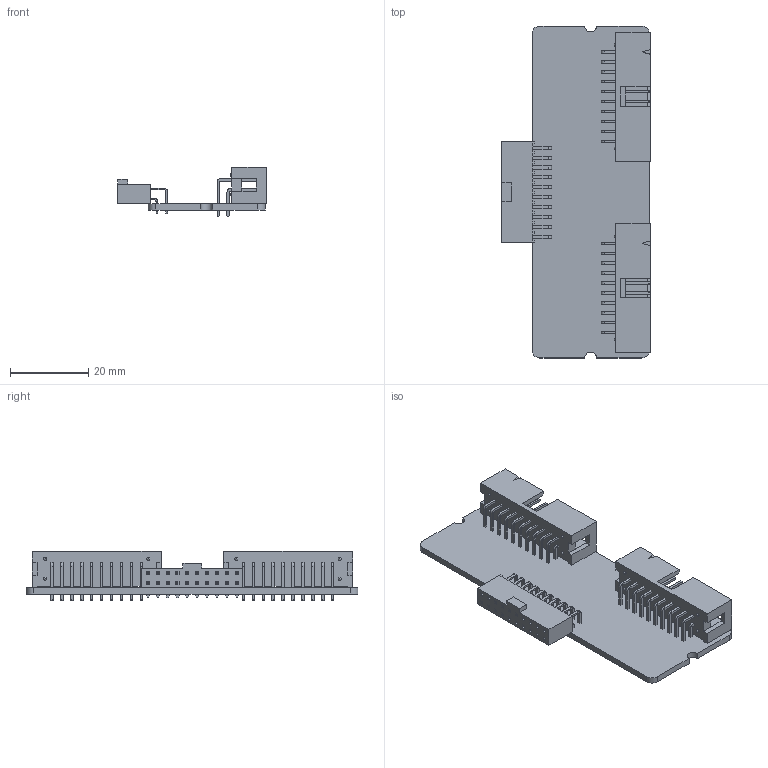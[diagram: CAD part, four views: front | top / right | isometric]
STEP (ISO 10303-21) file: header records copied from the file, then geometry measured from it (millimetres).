
FILE_DESCRIPTION(('Open CASCADE Model'),'2;1');
FILE_NAME('Open CASCADE Shape Model','2026-09-04T10:23:18',('Author'),( 'Open CASCADE'),'Open CASCADE STEP processor 7.5','Open CASCADE 7.5' ,'Unknown');
FILE_SCHEMA(('AUTOMOTIVE_DESIGN { 1 0 10303 214 1 1 1 1 }'));
Length unit declared in the file: millimetre
Products named in the file (13): PCB; Board; Open CASCADE STEP translator 7.5 2.1.1; P3; TST-110-04-G-D-RA; TST-110-04-D_header; TST-First_Position_Indicator; T-1S6-10-04-D-RA; P2; P1; SSW-110-02-G-D-RA-N; T1SSW-110-02-G-D-RA-N; P2SSW-110-02-G-D-RA
Assembly tree (13 placements, depth 4):
  PCB
    Board
      Open CASCADE STEP translator 7.5 2.1.1
    P3
      TST-110-04-G-D-RA
        TST-110-04-D_header
        TST-First_Position_Indicator
        T-1S6-10-04-D-RA
    P2
      TST-110-04-G-D-RA
        TST-110-04-D_header
        TST-First_Position_Indicator
        T-1S6-10-04-D-RA
    P1
      SSW-110-02-G-D-RA-N
        T1SSW-110-02-G-D-RA-N
        P2SSW-110-02-G-D-RA
Bounding box: 38.09 x 85 x 12.57 mm (x, y, z)
Volume: 8083.1 mm3; surface area: 13023.2 mm2
Topology: 9 solids, 9 shells, 1110 faces, 3228 edges, 2148 vertices
Faces by surface type: plane 976, cylinder 126, sphere 8
Entity records: 24268 total; most frequent: CARTESIAN_POINT 4322, ORIENTED_EDGE 4252, DIRECTION 3810, EDGE_CURVE 2126, LINE 1942, VECTOR 1942, VERTEX_POINT 1418, AXIS2_PLACEMENT_3D 934
